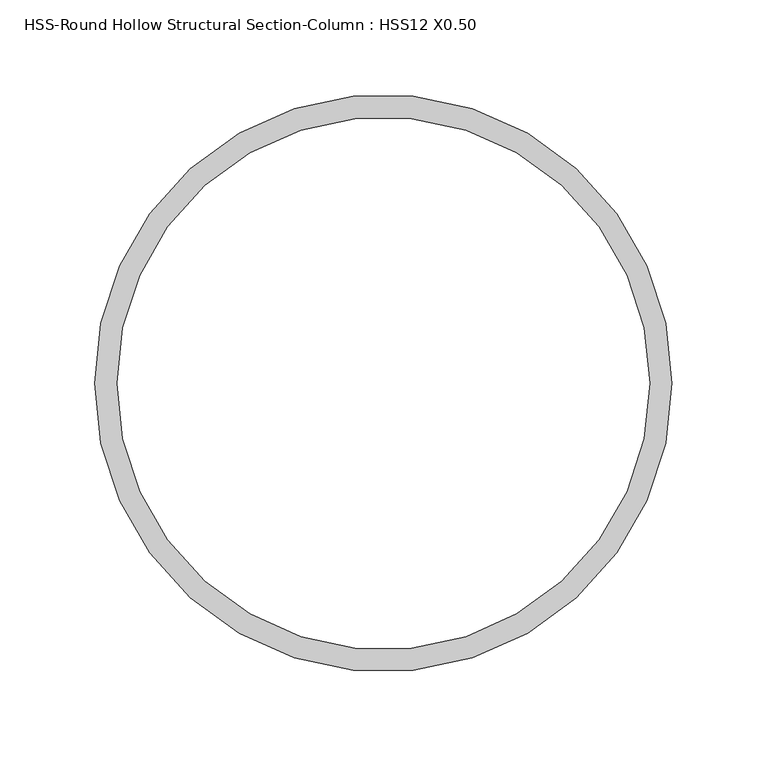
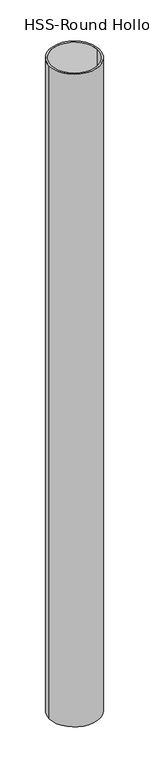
"""IFC4 building model written with IfcOpenShell, lengths in millimetres: column geometry, HSS-Round Hollow Structural Section-Column : HSS12 X0.50."""

from ifc_helpers import new_model, si_unit, point, frame, origin, origin_2d, place, context, project, spatial, circle_curve, trimmed, segment, composite_curve, outline, extrude, source, transform, mapped, element, save


def hss_round_hollow_structural_section_column_hss12_x0_50_d82e39e9(model_context):
    return source(origin(), model_context, "Body", "SweptSolid", [
        extrude(outline(composite_curve([segment(trimmed(circle_curve(origin_2d(), 152.4), [point((-152.4, 0.0))], [point((152.4, 0.0))], False, "CARTESIAN"), True, "CONTINUOUS"), segment(trimmed(circle_curve(origin_2d(), 152.4), [point((152.4, 0.0))], [point((-152.4, 0.0))], False, "CARTESIAN"), True, "CONTINUOUS")], self_intersect=False), holes=[composite_curve([segment(trimmed(circle_curve(origin_2d(), 140.589), [point((-140.589, 0.0))], [point((140.589, 0.0))], True, "CARTESIAN"), True, "CONTINUOUS"), segment(trimmed(circle_curve(origin_2d(), 140.589), [point((140.589, 0.0))], [point((-140.589, 0.0))], True, "CARTESIAN"), True, "CONTINUOUS")], self_intersect=False)]), frame((0.0, 0.0, 290080.7), z_axis=(0.0, 0.0, 1.0), x_axis=(1.0, 0.0, 0.0)), (0.0, 0.0, 1.0), 4178.3),
    ])


if __name__ == "__main__":
    model = new_model("IFC4")
    model_context = context("Model", 3, world=origin())
    ifc_project = project(units=[si_unit("LENGTHUNIT", "METRE", prefix="MILLI")], contexts=[model_context])
    site = spatial("IfcSite", under=ifc_project)
    building = spatial("IfcBuilding", under=site)
    placement = place(None, origin())
    hss_round_hollow_structural_section_column_hss12_x0_50_shape = hss_round_hollow_structural_section_column_hss12_x0_50_d82e39e9(model_context)
    element("IfcColumn", 1, ObjectType="HSS-Round Hollow Structural Section-Column : HSS12 X0.50", at=placement, inside=building, context=model_context, shape_type="MappedRepresentation", body=[
        mapped(hss_round_hollow_structural_section_column_hss12_x0_50_shape, transform((0.0, 0.0, 0.0), x_axis=(1.0, 0.0, 0.0), y_axis=(0.0, 1.0, 0.0), z_axis=(0.0, 0.0, 1.0))),
    ])
    save(model, "model.ifc")
